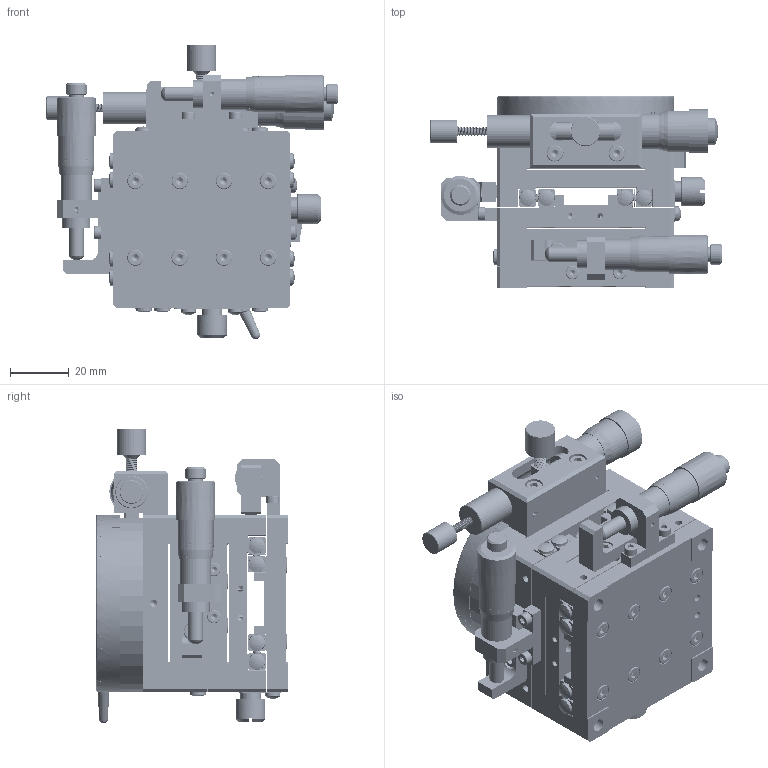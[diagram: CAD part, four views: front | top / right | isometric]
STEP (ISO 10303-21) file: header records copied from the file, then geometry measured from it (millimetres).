
FILE_DESCRIPTION (( 'STEP AP203' ), '1' );
FILE_NAME ('BLR60.STEP', '2024-07-27T07:35:57', ( 'Windows User' ), ( 'P R C' ), 'SwSTEP 2.0', 'SolidWorks 2024', '' );
FILE_SCHEMA (( 'CONFIG_CONTROL_DESIGN' ));
Products named in the file (1): BLR60
Bounding box: 98.78 x 65 x 99.85 mm (x, y, z)
Volume: 213784 mm3; surface area: 132924.3 mm2
Topology: 102 solids, 102 shells, 7083 faces, 18386 edges, 11972 vertices
Faces by surface type: bspline 2596, plane 2468, cylinder 1339, cone 619, torus 53, sphere 8
Full cylindrical faces by diameter (mm): 2 x45, 2.05 x34, 2.5 x58, 2.55 x32, 2.6 x1, 2.7 x4, 2.8 x6, 2.9 x2, 2.95 x18, 3 x47, 3.1 x4, 3.2 x4, 3.3 x22, 3.4 x35, 4 x6, 4.4 x32, 4.5 x20, 5 x14, 5.2 x1, 5.5 x39, 5.8 x4, 6 x36, 6.35 x2, 7 x8, 8 x13, 8.5 x3, 9 x2, 9.5 x8, 10 x3, 10.5 x2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
Entity records: 362308 total; most frequent: CARTESIAN_POINT 220128, ORIENTED_EDGE 34154, DIRECTION 18837, EDGE_CURVE 17077, VERTEX_POINT 11647, B_SPLINE_CURVE_WITH_KNOTS 9739, EDGE_LOOP 9016, FACE_OUTER_BOUND 7638
